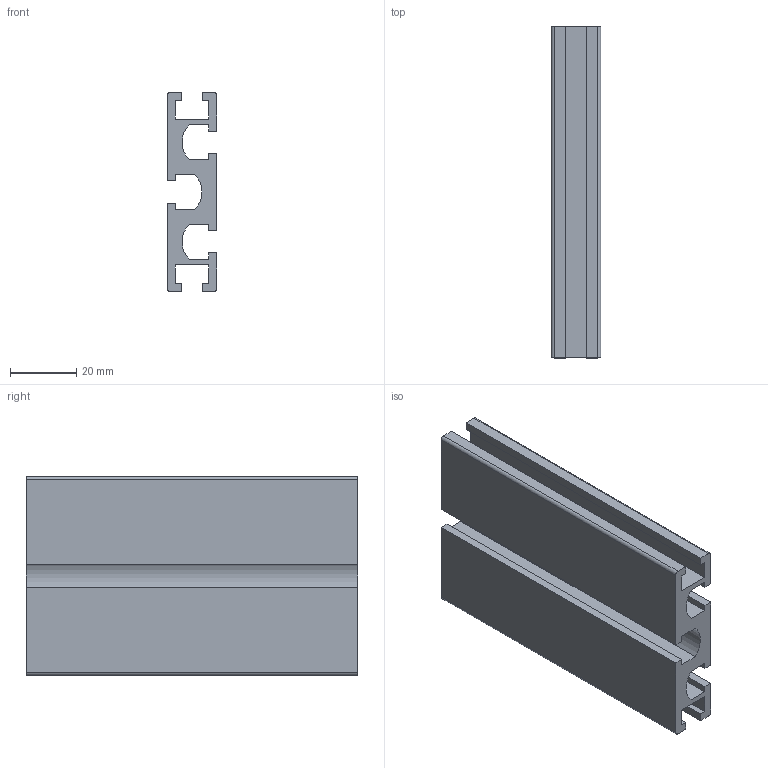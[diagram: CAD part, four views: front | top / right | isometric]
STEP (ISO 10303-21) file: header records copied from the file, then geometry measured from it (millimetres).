
FILE_DESCRIPTION(/* description */ (''),/* implementation_level */ '2;1');
FILE_NAME(/* name */ 'D:\硯聰\Inv材料庫-3D新型錄-2019整理\01.AM-鋁擠\6系列\\X2\65B0589E8CC76599593E\X0\\AM6-1560_100L.stp',/* time_stamp */ '2020-11-05T15:27:19+08:00',/* author */ ('Owner'),/* organization */ (''),/* preprocessor_version */ 'ST-DEVELOPER v16.1',/* originating_system */ 'Autodesk Inventor 2016',/* authorisation */ '');
FILE_SCHEMA (('AUTOMOTIVE_DESIGN { 1 0 10303 214 3 1 1 }'));
Length unit declared in the file: millimetre
Products named in the file (1): AM6-1560_100L
Bounding box: 15 x 100 x 60 mm (x, y, z)
Volume: 47693.5 mm3; surface area: 28135.1 mm2
Topology: 1 solids, 1 shells, 50 faces, 144 edges, 96 vertices
Faces by surface type: plane 43, cylinder 7
Entity records: 1646 total; most frequent: CARTESIAN_POINT 291, ORIENTED_EDGE 288, DIRECTION 260, EDGE_CURVE 144, LINE 130, VECTOR 130, VERTEX_POINT 96, AXIS2_PLACEMENT_3D 65
